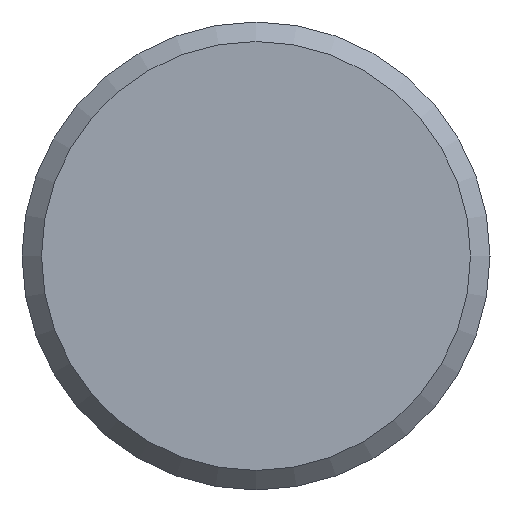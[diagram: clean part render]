
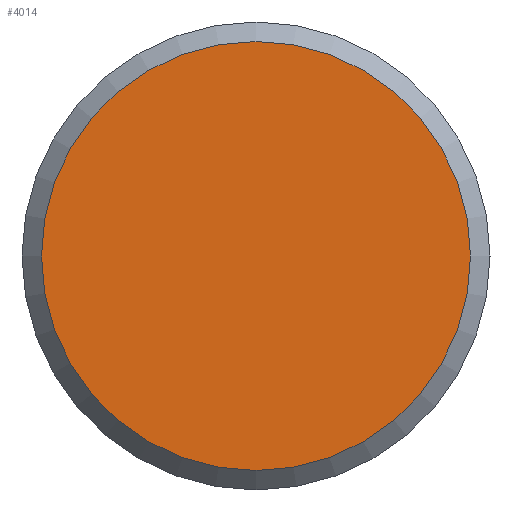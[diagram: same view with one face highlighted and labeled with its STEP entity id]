
A CAD part, left-side view. The second image highlights one B-rep face of the part: STEP entity #4014.
In plain terms, the highlighted planar face has unit normal (-1, 0, 0).
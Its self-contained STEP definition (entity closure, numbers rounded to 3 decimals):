
#1465=PLANE('',#3716);
#1521=ORIENTED_EDGE('',*,*,#2061,.T.);
#1789=CIRCLE('',#3715,5.5);
#1925=VERTEX_POINT('',#3304);
#2061=EDGE_CURVE('',#1925,#1925,#1789,.T.);
#2201=EDGE_LOOP('',(#1521));
#2473=FACE_BOUND('',#2201,.T.);
#2752=DIRECTION('',(-1.,0.,0.));
#2753=DIRECTION('',(0.,-5.5,0.));
#2754=DIRECTION('',(-1.,0.,0.));
#2755=DIRECTION('',(0.,1.,0.));
#3304=CARTESIAN_POINT('',(44.574,132.846,0.));
#3305=CARTESIAN_POINT('',(44.574,138.346,0.));
#3306=CARTESIAN_POINT('',(44.574,138.346,0.));
#3715=AXIS2_PLACEMENT_3D('',#3305,#2752,#2753);
#3716=AXIS2_PLACEMENT_3D('',#3306,#2754,#2755);
#4014=ADVANCED_FACE('',(#2473),#1465,.T.);
